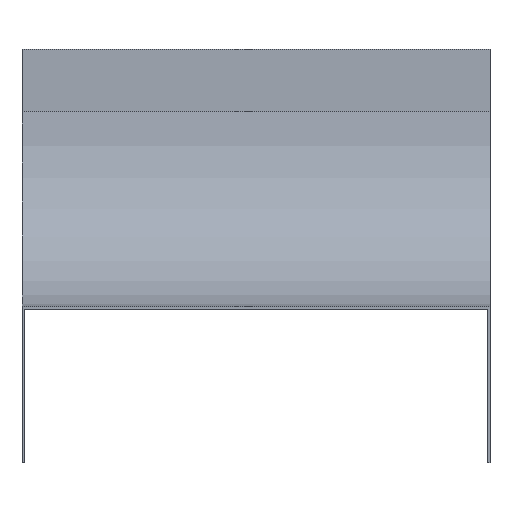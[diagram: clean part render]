
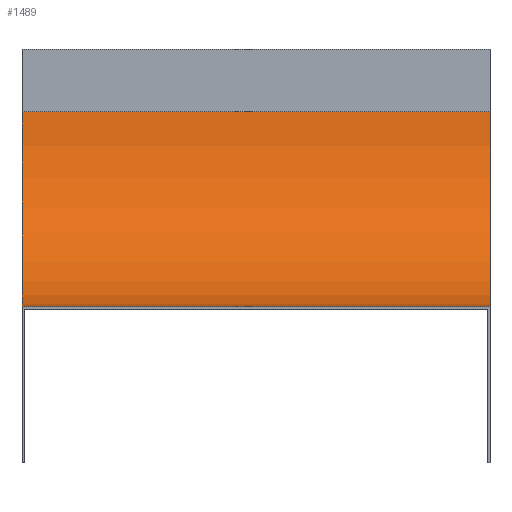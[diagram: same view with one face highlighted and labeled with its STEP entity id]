
A CAD part, front view. The second image highlights one B-rep face of the part: STEP entity #1489.
In plain terms, the highlighted cylindrical face has radius 125 mm (diameter 250 mm), a partial arc.
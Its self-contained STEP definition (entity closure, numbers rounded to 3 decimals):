
#80 = FACE_OUTER_BOUND ( 'NONE', #297, .T. ) ;
#177 = CARTESIAN_POINT ( 'NONE',  ( -150., 0., -40. ) ) ;
#185 = EDGE_CURVE ( 'NONE', #672, #189, #404, .T. ) ;
#189 = VERTEX_POINT ( 'NONE', #177 ) ;
#196 = AXIS2_PLACEMENT_3D ( 'NONE', #1547, #647, #774 ) ;
#270 = DIRECTION ( 'NONE',  ( -1., 0., 0. ) ) ;
#297 = EDGE_LOOP ( 'NONE', ( #1571, #991, #780, #915 ) ) ;
#313 = CARTESIAN_POINT ( 'NONE',  ( 150., -125., -165. ) ) ;
#339 = VERTEX_POINT ( 'NONE', #1628 ) ;
#404 = LINE ( 'NONE', #1049, #1570 ) ;
#425 = CARTESIAN_POINT ( 'NONE',  ( 150., 0., -40. ) ) ;
#470 = CYLINDRICAL_SURFACE ( 'NONE', #733, 125. ) ;
#647 = DIRECTION ( 'NONE',  ( -1., 0., 0. ) ) ;
#672 = VERTEX_POINT ( 'NONE', #425 ) ;
#698 = DIRECTION ( 'NONE',  ( -1., 0., 0. ) ) ;
#733 = AXIS2_PLACEMENT_3D ( 'NONE', #1246, #1382, #1514 ) ;
#774 = DIRECTION ( 'NONE',  ( 0., 0., 1. ) ) ;
#780 = ORIENTED_EDGE ( 'NONE', *, *, #1346, .F. ) ;
#786 = AXIS2_PLACEMENT_3D ( 'NONE', #1658, #270, #914 ) ;
#905 = DIRECTION ( 'NONE',  ( -1., 0., 0. ) ) ;
#914 = DIRECTION ( 'NONE',  ( 0., 0., 1. ) ) ;
#915 = ORIENTED_EDGE ( 'NONE', *, *, #185, .T. ) ;
#991 = ORIENTED_EDGE ( 'NONE', *, *, #1507, .F. ) ;
#996 = CARTESIAN_POINT ( 'NONE',  ( 150., -125., -165. ) ) ;
#1029 = VECTOR ( 'NONE', #698, 1000. ) ;
#1049 = CARTESIAN_POINT ( 'NONE',  ( 150., 0., -40. ) ) ;
#1241 = EDGE_CURVE ( 'NONE', #189, #339, #1437, .T. ) ;
#1246 = CARTESIAN_POINT ( 'NONE',  ( 150., -125., -40. ) ) ;
#1272 = CIRCLE ( 'NONE', #786, 125. ) ;
#1346 = EDGE_CURVE ( 'NONE', #672, #1667, #1272, .T. ) ;
#1382 = DIRECTION ( 'NONE',  ( -1., 0., 0. ) ) ;
#1437 = CIRCLE ( 'NONE', #196, 125. ) ;
#1473 = LINE ( 'NONE', #313, #1029 ) ;
#1489 = ADVANCED_FACE ( 'NONE', ( #80 ), #470, .F. ) ;
#1507 = EDGE_CURVE ( 'NONE', #1667, #339, #1473, .T. ) ;
#1514 = DIRECTION ( 'NONE',  ( 0., 0., 1. ) ) ;
#1547 = CARTESIAN_POINT ( 'NONE',  ( -150., -125., -40. ) ) ;
#1570 = VECTOR ( 'NONE', #905, 1000. ) ;
#1571 = ORIENTED_EDGE ( 'NONE', *, *, #1241, .T. ) ;
#1628 = CARTESIAN_POINT ( 'NONE',  ( -150., -125., -165. ) ) ;
#1658 = CARTESIAN_POINT ( 'NONE',  ( 150., -125., -40. ) ) ;
#1667 = VERTEX_POINT ( 'NONE', #996 ) ;
